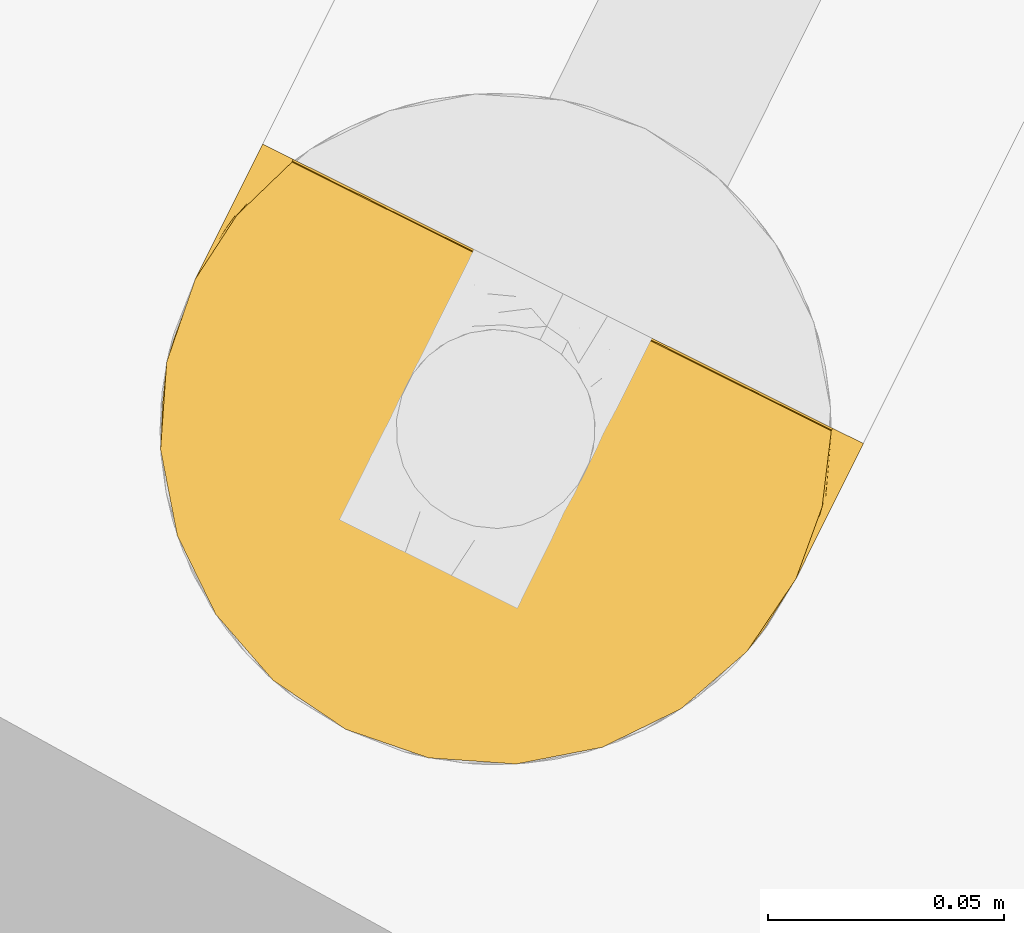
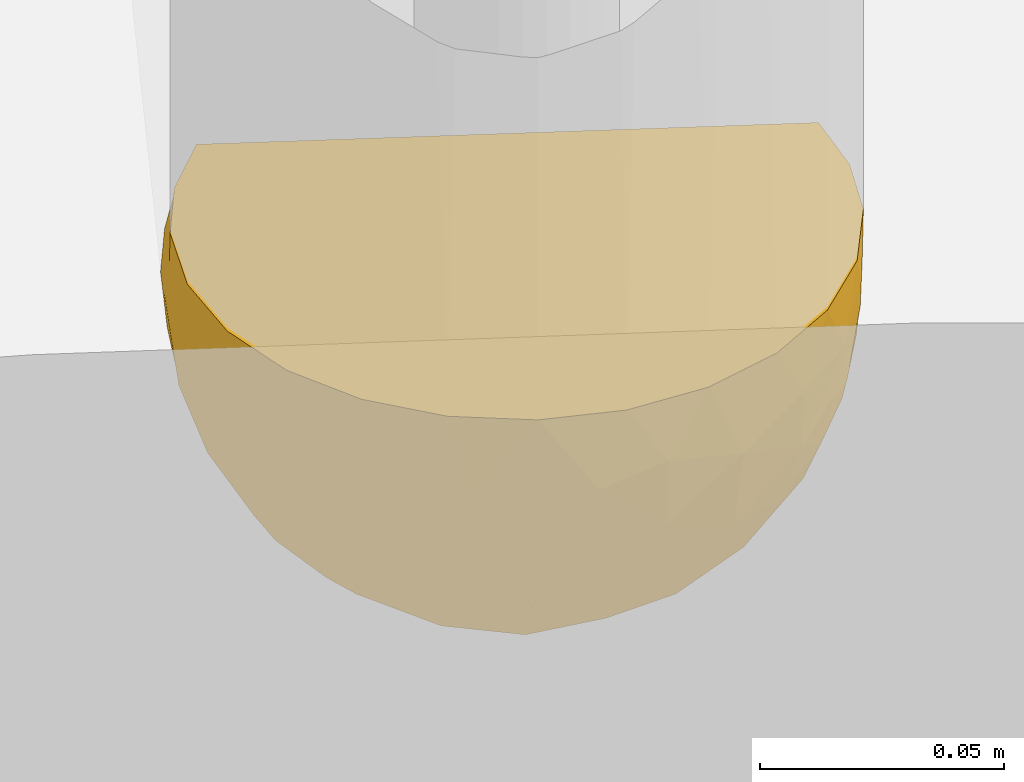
# One storey, part 17 of 47: 1 covering.
"""IFC2X3 building model written with IfcOpenShell, lengths in metres."""

from ifc_helpers import new_model, entity, si_unit, converted_unit, derived_unit, direction, frame, origin, place, context, subcontext, project, spatial, faceted_brep, element, save


model = new_model("IFC2X3")

# Units and contexts
model_context = context("Model", 3, precision=1e-05, world=origin(), true_north=direction((0.894925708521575, 0.446215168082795)))
context_of_model = context(None, 3, precision=1e-05, world=origin(), true_north=direction((0.894925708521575, 0.446215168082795)))
body_context = subcontext(model_context, "Body", "Model", "MODEL_VIEW")
ifc_project = project(units=[si_unit("LENGTHUNIT", "METRE"), si_unit("AREAUNIT", "SQUARE_METRE"), si_unit("VOLUMEUNIT", "CUBIC_METRE"), converted_unit("PLANEANGLEUNIT", "DEGREE", entity("IfcRatioMeasure", 0.0174532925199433), si_unit("PLANEANGLEUNIT", "RADIAN"), dimensions=[0, 0, 0, 0, 0, 0, 0]), si_unit("MASSUNIT", "GRAM", prefix="KILO"), si_unit("TIMEUNIT", "SECOND"), si_unit("FREQUENCYUNIT", "HERTZ"), si_unit("THERMODYNAMICTEMPERATUREUNIT", "DEGREE_CELSIUS"), derived_unit("THERMALTRANSMITTANCEUNIT", [(si_unit("MASSUNIT", "GRAM", prefix="KILO"), 1), (si_unit("THERMODYNAMICTEMPERATUREUNIT", "KELVIN"), -1), (si_unit("TIMEUNIT", "SECOND"), -3)]), derived_unit("VOLUMETRICFLOWRATEUNIT", [(si_unit("LENGTHUNIT", "METRE"), 3), (si_unit("TIMEUNIT", "SECOND"), -1)]), si_unit("ELECTRICCURRENTUNIT", "AMPERE"), si_unit("ELECTRICVOLTAGEUNIT", "VOLT"), si_unit("POWERUNIT", "WATT"), si_unit("FORCEUNIT", "NEWTON", prefix="KILO"), si_unit("ILLUMINANCEUNIT", "LUX"), si_unit("LUMINOUSFLUXUNIT", "LUMEN"), si_unit("LUMINOUSINTENSITYUNIT", "CANDELA"), si_unit("PRESSUREUNIT", "PASCAL")], contexts=[model_context, context_of_model])

# Site, building, storey
site_placement = place(None, frame((218.228324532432, 584.720189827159, 0.0), z_axis=(0.0, 0.0, 1.0), x_axis=(0.446215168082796, 0.894925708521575, 0.0)))
site = spatial("IfcSite", under=ifc_project, at=site_placement, Name="Default", CompositionType="ELEMENT")
building_placement = place(site_placement, origin())
building = spatial("IfcBuilding", under=site, at=building_placement, CompositionType="ELEMENT")
storey_placement = place(building_placement, frame((0.0, 0.0, 4.69)))
storey = spatial("IfcBuildingStorey", under=building, at=storey_placement, Name="1 - Piano Primo", CompositionType="ELEMENT", Elevation=4.69)

# Covering
covering_placement = place(storey_placement, frame((-68.5795614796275, -4.22377426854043, 2.88730472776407)))
element("IfcCovering", 1, at=covering_placement, inside=storey, Name="Isolamento tubazione:Default", ObjectType="Isolamento tubazione:Default", PredefinedType="INSULATION", context=body_context, shape_type="Brep", body=[
    faceted_brep([(0.10469527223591, 0.00701017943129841, 0.0454798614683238), (0.10469527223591, 0.013582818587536, 0.033186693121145), (0.10469527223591, 0.0224271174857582, 0.0224128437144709), (0.10469527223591, 0.0332029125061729, 0.0135719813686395), (0.10469527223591, 0.0454960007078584, 0.00700349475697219), (0.10469527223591, 0.0588340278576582, 0.00295951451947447), (0.10469527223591, 0.072695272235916, 0.00159527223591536), (0.10469527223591, 0.0865703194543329, 0.00296225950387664), (0.10469527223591, 0.0999106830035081, 0.00701017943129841), (0.10469527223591, 0.112203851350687, 0.0135828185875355), (0.10469527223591, 0.12297770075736, 0.0224271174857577), (0.10469527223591, 0.131818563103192, 0.0332029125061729), (0.10469527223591, 0.138387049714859, 0.0454960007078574), (0.10469527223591, 0.142431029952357, 0.0588340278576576), (0.10469527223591, 0.143795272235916, 0.0726952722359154), (0.10469527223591, 0.142971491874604, 0.083487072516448), (0.10469527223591, 0.140522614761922, 0.0940180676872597), (0.10469527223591, 0.136503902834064, 0.104058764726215), (0.104695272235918, 0.133021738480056, 0.104058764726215), (0.104695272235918, 0.127516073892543, 0.104058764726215), (0.104695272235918, 0.123022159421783, 0.104058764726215), (0.104695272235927, 0.118528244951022, 0.104058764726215), (0.104695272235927, 0.114034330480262, 0.104058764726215), (0.104695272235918, 0.109540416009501, 0.104058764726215), (0.104695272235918, 0.105046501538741, 0.104058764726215), (0.104695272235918, 0.10055258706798, 0.104058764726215), (0.104695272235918, 0.0960586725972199, 0.104058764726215), (0.104695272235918, 0.0915647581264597, 0.104058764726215), (0.104695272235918, 0.087070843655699, 0.104058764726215), (0.104695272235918, 0.0825769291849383, 0.104058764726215), (0.104695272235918, 0.0780830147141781, 0.104058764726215), (0.104695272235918, 0.0735891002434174, 0.104058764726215), (0.104695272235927, 0.0690951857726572, 0.104058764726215), (0.104695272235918, 0.0646012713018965, 0.104058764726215), (0.10469527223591, 0.0611191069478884, 0.104058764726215), (0.10469527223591, 0.0576369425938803, 0.104058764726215), (0.104695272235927, 0.0541547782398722, 0.104058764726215), (0.104695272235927, 0.0506726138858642, 0.104058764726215), (0.104695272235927, 0.0471904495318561, 0.104058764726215), (0.104695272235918, 0.043708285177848, 0.104058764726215), (0.104695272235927, 0.04022612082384, 0.104058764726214), (0.104695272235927, 0.0367439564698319, 0.104058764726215), (0.104695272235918, 0.0332617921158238, 0.104058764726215), (0.104695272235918, 0.0297796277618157, 0.104058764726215), (0.104695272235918, 0.0262974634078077, 0.104058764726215), (0.104695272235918, 0.0228152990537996, 0.104058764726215), (0.104695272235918, 0.0193331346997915, 0.104058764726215), (0.104695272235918, 0.0158509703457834, 0.104058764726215), (0.104695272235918, 0.0123688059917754, 0.104058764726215), (0.10469527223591, 0.00888664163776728, 0.104058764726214), (0.10469527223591, 0.00486548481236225, 0.0940102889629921), (0.10469527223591, 0.00241781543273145, 0.0834790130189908), (0.10469527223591, 0.0015952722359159, 0.0726952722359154), (0.10469527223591, 0.00296225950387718, 0.0588202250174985), (0.104058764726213, 0.136503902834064, 0.104695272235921), (0.0887952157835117, 0.14194844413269, 0.104695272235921), (0.0726952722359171, 0.143795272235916, 0.104695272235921), (0.0542932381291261, 0.141372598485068, 0.104695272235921), (0.0371452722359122, 0.134269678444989, 0.104695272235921), (0.022419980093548, 0.122970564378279, 0.104695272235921), (0.0111208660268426, 0.108245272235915, 0.104695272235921), (0.00401794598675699, 0.0910973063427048, 0.104695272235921), (0.0015952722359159, 0.072695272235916, 0.104695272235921), (0.00401794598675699, 0.0542932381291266, 0.104695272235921), (0.0111208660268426, 0.0371452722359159, 0.104695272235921), (0.022419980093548, 0.0224199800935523, 0.104695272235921), (0.0371452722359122, 0.0111208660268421, 0.104695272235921), (0.0542932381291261, 0.00401794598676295, 0.104695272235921), (0.0726952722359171, 0.0015952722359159, 0.104695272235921), (0.0887952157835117, 0.00344210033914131, 0.104695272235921), (0.104058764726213, 0.00888664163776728, 0.104695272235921), (0.104058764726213, 0.0123688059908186, 0.104695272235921), (0.104058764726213, 0.0168627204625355, 0.104695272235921), (0.104058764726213, 0.0208507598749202, 0.104695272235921), (0.104058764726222, 0.0248387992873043, 0.104695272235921), (0.104058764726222, 0.0288268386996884, 0.104695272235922), (0.104058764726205, 0.0328148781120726, 0.10469527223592), (0.104058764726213, 0.0368029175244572, 0.104695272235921), (0.104058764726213, 0.0407909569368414, 0.104695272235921), (0.104058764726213, 0.044778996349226, 0.104695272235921), (0.104058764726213, 0.0487670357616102, 0.104695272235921), (0.104058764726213, 0.0527550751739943, 0.104695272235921), (0.104058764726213, 0.0567431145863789, 0.104695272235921), (0.104058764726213, 0.0607311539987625, 0.104695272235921), (0.104058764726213, 0.0647191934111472, 0.104695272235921), (0.104058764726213, 0.0687072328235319, 0.104695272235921), (0.104058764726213, 0.0726952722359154, 0.104695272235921), (0.104058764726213, 0.0771891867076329, 0.104695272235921), (0.104058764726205, 0.0816831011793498, 0.104695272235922), (0.104058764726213, 0.0861770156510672, 0.104695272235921), (0.104058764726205, 0.0906709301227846, 0.104695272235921), (0.104058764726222, 0.0951648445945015, 0.10469527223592), (0.104058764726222, 0.0996587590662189, 0.104695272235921), (0.104058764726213, 0.104152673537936, 0.104695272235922), (0.104058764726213, 0.108646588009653, 0.104695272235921), (0.104058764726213, 0.112128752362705, 0.104695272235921), (0.104058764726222, 0.115610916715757, 0.10469527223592), (0.104058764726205, 0.119093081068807, 0.104695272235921), (0.104058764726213, 0.122575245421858, 0.104695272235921), (0.104058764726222, 0.12605740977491, 0.104695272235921), (0.104058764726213, 0.129539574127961, 0.104695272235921), (0.104058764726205, 0.133021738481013, 0.104695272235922), (0.104255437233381, 0.0271624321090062, 0.104235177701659), (0.104218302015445, 0.0228447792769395, 0.104273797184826), (0.104232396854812, 0.105639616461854, 0.104258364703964), (0.104223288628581, 0.101905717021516, 0.104268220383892), (0.104244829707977, 0.0867435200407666, 0.104245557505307), (0.10424881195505, 0.0668482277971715, 0.1042416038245), (0.104242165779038, 0.0708348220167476, 0.104248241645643), (0.104245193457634, 0.131280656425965, 0.104245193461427), (0.10421499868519, 0.127420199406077, 0.104277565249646), (0.104245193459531, 0.00888664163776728, 0.104245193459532), (0.104245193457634, 0.0141098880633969, 0.104245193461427), (0.104245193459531, 0.136503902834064, 0.104245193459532), (0.104223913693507, 0.0427849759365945, 0.104267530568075), (0.104194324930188, 0.12406761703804, 0.104302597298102), (0.104258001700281, 0.120775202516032, 0.104232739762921), (0.104229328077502, 0.110387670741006, 0.104261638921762), (0.104266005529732, 0.0524136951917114, 0.104225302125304), (0.104242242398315, 0.0628628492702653, 0.104248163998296), (0.104232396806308, 0.0831700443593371, 0.104258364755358), (0.104223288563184, 0.0794361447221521, 0.104268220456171), (0.104225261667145, 0.0747761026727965, 0.10426604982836), (0.104248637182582, 0.0979269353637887, 0.104241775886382), (0.104265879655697, 0.0939908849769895, 0.104225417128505), (0.10418805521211, 0.113677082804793, 0.104310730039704), (0.104277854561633, 0.0485334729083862, 0.104214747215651), (0.104213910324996, 0.0308953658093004, 0.104278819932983), (0.104270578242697, 0.0181058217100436, 0.104221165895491), (0.104591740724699, 0.136503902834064, 0.104101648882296), (0.104488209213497, 0.136503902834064, 0.104144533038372), (0.104366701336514, 0.136503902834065, 0.104194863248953), (0.104366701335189, 0.00888664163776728, 0.104194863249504), (0.104488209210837, 0.00888664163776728, 0.104144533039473), (0.104591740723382, 0.00888664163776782, 0.104101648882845), (0.104101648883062, 0.00888664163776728, 0.104591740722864), (0.104144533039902, 0.00888664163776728, 0.104488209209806), (0.104194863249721, 0.00888664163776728, 0.10436670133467), (0.104194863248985, 0.136503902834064, 0.104366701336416), (0.104144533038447, 0.136503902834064, 0.104488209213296), (0.104101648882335, 0.136503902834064, 0.104591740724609), (0.104253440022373, 0.0346305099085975, 0.10423709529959), (0.104241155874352, 0.038695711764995, 0.104249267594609), (0.104226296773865, 0.0587371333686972, 0.104264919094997), (0.104250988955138, 0.116928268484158, 0.104239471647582), (0.104255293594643, 0.0903177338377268, 0.104235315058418), (0.0955895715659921, 0.140124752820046, 0.102165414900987), (0.0756538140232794, 0.143795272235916, 0.0936538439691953), (0.0903264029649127, 0.141948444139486, 0.0978873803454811), (0.0769824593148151, 0.143795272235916, 0.0886952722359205), (0.099446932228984, 0.139668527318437, 0.0984867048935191), (0.0969886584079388, 0.140275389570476, 0.0984711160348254), (0.0852157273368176, 0.142769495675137, 0.100314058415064), (0.0937883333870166, 0.142149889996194, 0.0919269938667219), (0.0995371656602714, 0.141947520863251, 0.0896593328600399), (0.0971703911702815, 0.14335401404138, 0.0818096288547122), (0.0886952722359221, 0.143795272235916, 0.0769824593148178), (0.0941883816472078, 0.143120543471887, 0.0851072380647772), (0.0975935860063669, 0.143795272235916, 0.0745981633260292), (0.0966952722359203, 0.143795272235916, 0.0748388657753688), (0.0828388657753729, 0.143795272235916, 0.0828388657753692), (0.0983827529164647, 0.141108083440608, 0.093747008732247), (0.0887697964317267, 0.142774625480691, 0.0926030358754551), (0.0980466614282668, 0.139421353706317, 0.101340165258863), (0.0745981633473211, 0.143795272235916, 0.097593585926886), (0.0741745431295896, 0.143795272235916, 0.0991745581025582), (0.05493745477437, 0.0893151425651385, 0.0166527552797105), (0.0728356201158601, 0.072695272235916, 0.00664134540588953), (0.0440946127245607, 0.072695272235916, 0.0212856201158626), (0.0622318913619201, 0.142051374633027, 0.0830749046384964), (0.064708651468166, 0.141372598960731, 0.0740124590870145), (0.0499934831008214, 0.138383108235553, 0.0820370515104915), (0.0319775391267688, 0.12910269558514, 0.0852106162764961), (0.0415723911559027, 0.129776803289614, 0.0653332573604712), (0.0252477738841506, 0.115978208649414, 0.0659142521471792), (0.0463859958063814, 0.138383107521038, 0.0944137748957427), (0.0598671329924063, 0.142260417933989, 0.0916290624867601), (0.063121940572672, 0.106218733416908, 0.0196076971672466), (0.0345360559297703, 0.0958613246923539, 0.0345360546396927), (0.00664134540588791, 0.072695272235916, 0.0728356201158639), (0.00500701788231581, 0.0860602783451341, 0.0839077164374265), (0.0142207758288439, 0.0874984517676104, 0.0585962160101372), (0.0790684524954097, 0.0933399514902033, 0.00799662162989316), (0.0934073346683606, 0.135404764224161, 0.0401679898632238), (0.0929552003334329, 0.140736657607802, 0.0533918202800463), (0.081565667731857, 0.141485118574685, 0.0603928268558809), (0.0109111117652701, 0.099904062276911, 0.0773558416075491), (0.0181968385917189, 0.115978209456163, 0.0864225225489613), (0.054827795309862, 0.127662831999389, 0.0458969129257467), (0.0680594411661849, 0.136403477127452, 0.0527474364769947), (0.0661639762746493, 0.122566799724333, 0.0315472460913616), (0.0723759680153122, 0.141414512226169, 0.0662243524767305), (0.0808693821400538, 0.13540476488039, 0.0436746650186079), (0.0824199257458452, 0.117808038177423, 0.020641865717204), (0.0841133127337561, 0.128216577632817, 0.031105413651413), (0.0212856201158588, 0.072695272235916, 0.0440946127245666), (0.0203118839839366, 0.102581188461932, 0.0578511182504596), (0.0805231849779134, 0.106218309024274, 0.0131311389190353), (0.0464184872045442, 0.113404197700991, 0.035727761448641), (0.0324415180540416, 0.112029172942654, 0.0489988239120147), (0.0555385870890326, 0.134923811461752, 0.0600686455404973), (0.0975935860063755, 0.0015952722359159, 0.0745981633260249), (0.0913710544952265, 0.00465846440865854, 0.0537646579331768), (0.004760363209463, 0.0599076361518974, 0.0845731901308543), (0.0827615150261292, 0.0520656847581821, 0.00708795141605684), (0.0138047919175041, 0.0454864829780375, 0.0688925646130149), (0.0111562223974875, 0.0595021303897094, 0.0643595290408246), (0.021099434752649, 0.0504699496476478, 0.0506642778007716), (0.00833085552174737, 0.0454864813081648, 0.0886699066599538), (0.0817733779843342, 0.0282563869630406, 0.0202496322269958), (0.0711302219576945, 0.0391881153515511, 0.0161330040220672), (0.0888743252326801, 0.0391881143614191, 0.0113165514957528), (0.0345599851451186, 0.0494312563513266, 0.034559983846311), (0.0628139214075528, 0.00285641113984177, 0.0873474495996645), (0.0769824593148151, 0.0015952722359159, 0.0886952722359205), (0.0756538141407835, 0.00159527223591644, 0.0936538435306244), (0.0748388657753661, 0.0015952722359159, 0.0966952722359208), (0.0486500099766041, 0.00878913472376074, 0.0755634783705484), (0.0479164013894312, 0.00700743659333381, 0.08790716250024), (0.0373801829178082, 0.0162878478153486, 0.0709877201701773), (0.0191716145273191, 0.0294123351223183, 0.0822993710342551), (0.0311242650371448, 0.0162878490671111, 0.0887319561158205), (0.0286599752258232, 0.0307050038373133, 0.0577193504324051), (0.0692036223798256, 0.00621925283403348, 0.0598098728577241), (0.08136768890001, 0.00429322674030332, 0.0588934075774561), (0.0787072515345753, 0.00255877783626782, 0.0696054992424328), (0.0498649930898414, 0.0275978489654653, 0.0371897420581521), (0.0674667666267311, 0.0222616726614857, 0.031502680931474), (0.0586949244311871, 0.0147818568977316, 0.04769554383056), (0.0851784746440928, 0.0177403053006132, 0.0300931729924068), (0.0884455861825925, 0.00999426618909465, 0.0412191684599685), (0.0763682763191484, 0.00999449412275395, 0.045611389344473), (0.0566569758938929, 0.0554031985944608, 0.015890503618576), (0.0513608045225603, 0.0413829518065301, 0.0250740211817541), (0.0966952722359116, 0.0015952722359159, 0.0748388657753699), (0.0886952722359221, 0.0015952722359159, 0.0769824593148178), (0.0397017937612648, 0.0373836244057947, 0.037184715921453), (0.0601005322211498, 0.00287127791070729, 0.0961308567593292), (0.0428323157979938, 0.0202384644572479, 0.0539790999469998), (0.0525790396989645, 0.0116104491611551, 0.0604190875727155), (0.0601608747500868, 0.00569062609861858, 0.0711046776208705), (0.0828388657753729, 0.0015952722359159, 0.0828388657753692), (0.0741745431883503, 0.00159527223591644, 0.0991745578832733), (0.0817501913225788, 0.00212060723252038, 0.100243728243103), (0.102600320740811, 0.00583103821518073, 0.0971549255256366), (0.100433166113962, 0.00537216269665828, 0.0966155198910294), (0.0995320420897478, 0.00344117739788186, 0.0896526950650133), (0.0827053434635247, 0.00200983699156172, 0.0942765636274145), (0.0972106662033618, 0.00520911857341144, 0.0986504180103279), (0.0994658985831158, 0.00572682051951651, 0.098488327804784), (0.0903264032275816, 0.00344210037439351, 0.0978873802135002), (0.0960116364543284, 0.00307858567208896, 0.0894411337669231), (0.0937833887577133, 0.00323988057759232, 0.0919265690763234), (0.0886882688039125, 0.00259903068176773, 0.0925466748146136), (0.0920715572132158, 0.00419789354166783, 0.101856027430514)], [[[0, 1, 2, 3, 4, 5, 6, 7, 8, 9, 10, 11, 12, 13, 14, 15, 16, 17, 18, 19, 20, 21, 22, 23, 24, 25, 26, 27, 28, 29, 30, 31, 32, 33, 34, 35, 36, 37, 38, 39, 40, 41, 42, 43, 44, 45, 46, 47, 48, 49, 50, 51, 52, 53]], [[54, 55, 56, 57, 58, 59, 60, 61, 62, 63, 64, 65, 66, 67, 68, 69, 70, 71, 72, 73, 74, 75, 76, 77, 78, 79, 80, 81, 82, 83, 84, 85, 86, 87, 88, 89, 90, 91, 92, 93, 94, 95, 96, 97, 98, 99, 100, 101]], [[102, 74, 103]], [[24, 104, 105]], [[90, 89, 106]], [[107, 32, 108]], [[109, 100, 110]], [[33, 32, 107]], [[111, 48, 112]], [[18, 113, 109]], [[100, 109, 113, 101]], [[71, 111, 112, 72]], [[39, 38, 114, 40]], [[20, 115, 116]], [[117, 94, 104]], [[80, 118, 82, 81]], [[119, 33, 107]], [[29, 120, 121]], [[108, 122, 86]], [[110, 19, 109]], [[108, 32, 31]], [[107, 108, 85]], [[121, 30, 29]], [[25, 123, 26]], [[112, 48, 47]], [[18, 109, 19]], [[93, 92, 105]], [[124, 91, 90]], [[22, 125, 117]], [[126, 37, 118]], [[102, 43, 127]], [[112, 47, 128]], [[73, 128, 103]], [[18, 17, 129, 130, 131, 113]], [[48, 111, 132, 133, 134, 49]], [[71, 70, 135, 136, 137, 111]], [[101, 113, 138, 139, 140, 54]], [[72, 112, 128]], [[103, 74, 73]], [[25, 24, 105]], [[128, 46, 103]], [[73, 72, 128]], [[20, 116, 21]], [[110, 99, 115]], [[115, 20, 19]], [[76, 127, 141]], [[142, 114, 78]], [[95, 125, 96]], [[127, 76, 75]], [[102, 103, 44]], [[103, 46, 45, 44]], [[119, 143, 34]], [[85, 84, 107]], [[143, 118, 36]], [[84, 119, 107]], [[86, 85, 108]], [[87, 121, 88]], [[31, 122, 108]], [[122, 87, 86]], [[31, 30, 122]], [[121, 87, 122]], [[35, 34, 143, 36]], [[83, 143, 119]], [[82, 143, 83]], [[119, 84, 83]], [[143, 82, 118]], [[36, 118, 37]], [[126, 114, 38]], [[42, 41, 141]], [[80, 126, 118]], [[79, 114, 126]], [[78, 114, 79]], [[126, 80, 79]], [[142, 40, 114]], [[41, 142, 141]], [[142, 77, 141]], [[43, 42, 127]], [[75, 74, 102]], [[76, 141, 77]], [[142, 78, 77]], [[127, 42, 141]], [[102, 127, 75]], [[116, 97, 144]], [[144, 21, 116]], [[98, 116, 115]], [[95, 94, 117]], [[23, 22, 117]], [[22, 21, 144]], [[96, 125, 144]], [[125, 95, 117]], [[24, 23, 104]], [[38, 37, 126]], [[110, 100, 99]], [[104, 93, 105]], [[124, 123, 91]], [[92, 123, 105]], [[105, 123, 25]], [[92, 91, 123]], [[124, 26, 123]], [[124, 27, 26]], [[145, 27, 124]], [[93, 104, 94]], [[117, 104, 23]], [[120, 88, 121]], [[30, 121, 122]], [[106, 145, 90]], [[89, 88, 120]], [[145, 124, 90]], [[120, 29, 28]], [[145, 28, 27]], [[106, 28, 145]], [[34, 33, 119]], [[128, 47, 46]], [[144, 125, 22]], [[96, 144, 97]], [[116, 98, 97]], [[142, 41, 40]], [[98, 115, 99]], [[19, 110, 115]], [[44, 43, 102]], [[106, 120, 28]], [[120, 106, 89]], [[54, 140, 139, 146]], [[147, 148, 149]], [[113, 150, 151]], [[55, 152, 56]], [[151, 138, 113]], [[129, 17, 16]], [[151, 150, 153]], [[130, 129, 154]], [[154, 129, 16]], [[155, 156, 157]], [[15, 14, 158, 159]], [[159, 155, 15]], [[160, 153, 157]], [[153, 150, 161]], [[151, 162, 148]], [[16, 15, 154]], [[146, 152, 55]], [[153, 161, 157]], [[163, 146, 139]], [[152, 146, 148]], [[54, 146, 55]], [[148, 147, 152]], [[152, 147, 164, 165, 56]], [[163, 139, 138]], [[162, 151, 153]], [[163, 151, 148]], [[153, 160, 162]], [[149, 148, 162]], [[151, 163, 138]], [[149, 162, 160]], [[146, 163, 148]], [[161, 130, 154]], [[161, 131, 130]], [[150, 113, 131]], [[131, 161, 150]], [[157, 161, 154]], [[155, 157, 154]], [[157, 156, 160]], [[15, 155, 154]], [[156, 155, 159]], [[166, 167, 168]], [[169, 170, 171]], [[172, 173, 174]], [[171, 175, 176]], [[177, 166, 178]], [[179, 180, 181]], [[7, 167, 182]], [[8, 7, 182]], [[183, 184, 12]], [[185, 156, 159, 158]], [[186, 60, 187]], [[61, 180, 62]], [[188, 189, 190]], [[60, 186, 61]], [[58, 175, 172]], [[158, 14, 13]], [[60, 59, 187]], [[185, 191, 156]], [[192, 189, 185]], [[180, 61, 186]], [[193, 10, 9]], [[194, 10, 193]], [[185, 158, 184]], [[184, 13, 12]], [[58, 172, 59]], [[178, 168, 195]], [[196, 181, 186]], [[158, 13, 184]], [[192, 194, 190]], [[197, 182, 177]], [[197, 9, 8]], [[182, 166, 177]], [[58, 57, 175]], [[188, 190, 198]], [[7, 6, 167]], [[193, 197, 177]], [[194, 192, 183]], [[184, 192, 185]], [[188, 199, 173]], [[11, 183, 12]], [[173, 172, 171]], [[181, 195, 179]], [[187, 172, 174]], [[57, 56, 165, 164]], [[189, 192, 190]], [[160, 156, 191]], [[176, 169, 171]], [[160, 170, 149]], [[189, 188, 200]], [[11, 10, 194]], [[184, 183, 192]], [[194, 183, 11]], [[194, 193, 190]], [[193, 177, 190]], [[198, 190, 177]], [[177, 178, 198]], [[178, 196, 199]], [[200, 171, 170]], [[199, 188, 198]], [[167, 166, 182]], [[178, 166, 168]], [[172, 187, 59]], [[186, 187, 174]], [[200, 188, 173]], [[191, 185, 189]], [[171, 200, 173]], [[191, 200, 170]], [[200, 191, 189]], [[160, 191, 170]], [[176, 57, 164]], [[172, 175, 171]], [[57, 176, 175]], [[176, 164, 147, 149]], [[176, 149, 169]], [[149, 170, 169]], [[196, 186, 174]], [[178, 195, 181]], [[199, 196, 174]], [[178, 181, 196]], [[173, 199, 174]], [[178, 199, 198]], [[9, 197, 193]], [[8, 182, 197]], [[181, 180, 186]], [[62, 180, 179]], [[53, 201, 202]], [[62, 179, 203]], [[4, 204, 5]], [[205, 203, 206]], [[206, 207, 205]], [[208, 203, 205]], [[209, 210, 211]], [[212, 195, 168]], [[213, 214, 215, 216]], [[217, 218, 219]], [[64, 220, 65]], [[221, 218, 66]], [[222, 219, 220]], [[221, 66, 65]], [[220, 64, 208]], [[223, 224, 225]], [[226, 227, 228]], [[229, 230, 231]], [[204, 232, 167]], [[233, 232, 210]], [[2, 1, 229]], [[2, 229, 209]], [[233, 212, 232]], [[204, 4, 211]], [[6, 5, 167]], [[63, 208, 64]], [[167, 5, 204]], [[53, 52, 201]], [[230, 202, 231]], [[3, 2, 209]], [[230, 1, 0]], [[227, 210, 209]], [[224, 223, 231]], [[0, 53, 202]], [[66, 218, 67]], [[226, 233, 227]], [[204, 210, 232]], [[224, 201, 234, 235]], [[168, 167, 232]], [[3, 211, 4]], [[233, 236, 212]], [[218, 213, 237]], [[212, 168, 232]], [[219, 222, 238]], [[239, 223, 240]], [[222, 220, 205]], [[221, 220, 219]], [[222, 205, 207]], [[238, 226, 228]], [[213, 240, 214]], [[67, 237, 68]], [[204, 211, 210]], [[209, 211, 3]], [[209, 229, 227]], [[229, 231, 227]], [[228, 227, 231]], [[223, 228, 231]], [[239, 219, 238]], [[224, 231, 202]], [[225, 240, 223]], [[220, 221, 65]], [[214, 240, 241]], [[218, 221, 219]], [[237, 213, 216]], [[213, 218, 217]], [[237, 216, 242, 68]], [[218, 237, 67]], [[201, 224, 202]], [[225, 224, 235]], [[235, 241, 225]], [[240, 225, 241]], [[227, 233, 210]], [[236, 233, 226]], [[238, 236, 226]], [[207, 236, 222]], [[203, 208, 63]], [[220, 208, 205]], [[62, 203, 63]], [[203, 179, 206]], [[179, 195, 206]], [[207, 195, 212]], [[195, 207, 206]], [[207, 212, 236]], [[238, 222, 236]], [[239, 238, 228]], [[223, 239, 228]], [[239, 240, 217]], [[1, 230, 229]], [[0, 202, 230]], [[239, 217, 219]], [[213, 217, 240]], [[243, 68, 242, 216, 215]], [[244, 245, 246]], [[214, 247, 215]], [[111, 248, 249]], [[137, 136, 250]], [[246, 51, 50]], [[246, 245, 251]], [[50, 244, 246]], [[246, 234, 51]], [[241, 252, 253]], [[132, 245, 133]], [[250, 247, 253]], [[235, 234, 251]], [[50, 134, 244]], [[69, 254, 70]], [[249, 132, 111]], [[50, 49, 134]], [[133, 244, 134]], [[245, 244, 133]], [[245, 249, 251]], [[254, 69, 243]], [[247, 243, 215]], [[111, 137, 248]], [[241, 253, 214]], [[250, 254, 243]], [[250, 243, 247]], [[68, 243, 69]], [[252, 241, 235]], [[253, 247, 214]], [[248, 250, 253]], [[252, 249, 248]], [[250, 248, 137]], [[252, 248, 253]], [[250, 136, 254]], [[254, 136, 135, 70]], [[252, 235, 251]], [[51, 234, 201, 52]], [[251, 249, 252]], [[132, 249, 245]], [[251, 234, 246]]]),
])

save(model, "model.ifc")
